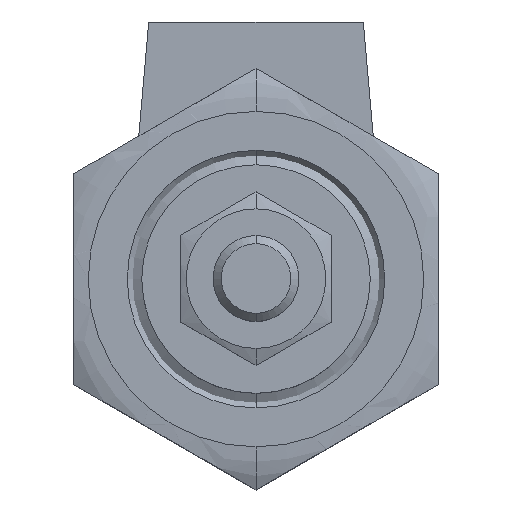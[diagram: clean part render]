
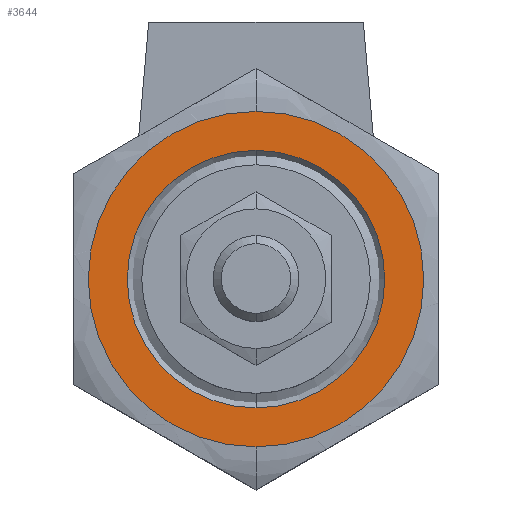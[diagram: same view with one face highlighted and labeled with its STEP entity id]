
A CAD part, top view. The second image highlights one B-rep face of the part: STEP entity #3644.
In plain terms, the highlighted planar face has unit normal (0, 0, 1).
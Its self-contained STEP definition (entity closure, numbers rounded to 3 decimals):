
#3217=CARTESIAN_POINT('',(0.,0.,0.));
#3218=DIRECTION('',(0.,0.,-1.));
#3219=DIRECTION('',(0.,1.,0.));
#3220=AXIS2_PLACEMENT_3D('',#3217,#3218,#3219);
#3225=CARTESIAN_POINT('',(0.,0.,0.));
#3226=DIRECTION('',(0.,0.,-1.));
#3227=DIRECTION('',(0.,-1.,0.));
#3228=AXIS2_PLACEMENT_3D('',#3225,#3226,#3227);
#3233=CARTESIAN_POINT('',(0.,0.,0.));
#3234=DIRECTION('',(0.,0.,-1.));
#3235=DIRECTION('',(0.,1.,0.));
#3236=AXIS2_PLACEMENT_3D('',#3233,#3234,#3235);
#3241=CARTESIAN_POINT('',(0.,0.,0.));
#3242=DIRECTION('',(0.,0.,-1.));
#3243=DIRECTION('',(0.,-1.,0.));
#3244=AXIS2_PLACEMENT_3D('',#3241,#3242,#3243);
#3597=CARTESIAN_POINT('',(0.,6.,0.));
#3598=CARTESIAN_POINT('',(0.,-6.,0.));
#3599=VERTEX_POINT('',#3597);
#3600=VERTEX_POINT('',#3598);
#3601=CARTESIAN_POINT('',(0.,7.815,0.));
#3602=CARTESIAN_POINT('',(0.,-7.815,0.));
#3603=VERTEX_POINT('',#3601);
#3604=VERTEX_POINT('',#3602);
#3627=CARTESIAN_POINT('',(0.,0.,0.));
#3628=DIRECTION('',(0.,0.,-1.));
#3629=DIRECTION('',(-1.,0.,0.));
#3630=AXIS2_PLACEMENT_3D('',#3627,#3628,#3629);
#3631=PLANE('',#3630);
#3633=ORIENTED_EDGE('',*,*,#3632,.T.);
#3635=ORIENTED_EDGE('',*,*,#3634,.T.);
#3636=EDGE_LOOP('',(#3633,#3635));
#3637=FACE_OUTER_BOUND('',#3636,.F.);
#3639=ORIENTED_EDGE('',*,*,#3638,.F.);
#3641=ORIENTED_EDGE('',*,*,#3640,.F.);
#3642=EDGE_LOOP('',(#3639,#3641));
#3643=FACE_BOUND('',#3642,.F.);
#3644=ADVANCED_FACE('',(#3637,#3643),#3631,.F.);
#3221=CIRCLE('',#3220,6.);
#3229=CIRCLE('',#3228,6.);
#3237=CIRCLE('',#3236,7.815);
#3245=CIRCLE('',#3244,7.815);
#3632=EDGE_CURVE('',#3603,#3604,#3237,.T.);
#3634=EDGE_CURVE('',#3604,#3603,#3245,.T.);
#3638=EDGE_CURVE('',#3599,#3600,#3221,.T.);
#3640=EDGE_CURVE('',#3600,#3599,#3229,.T.);
